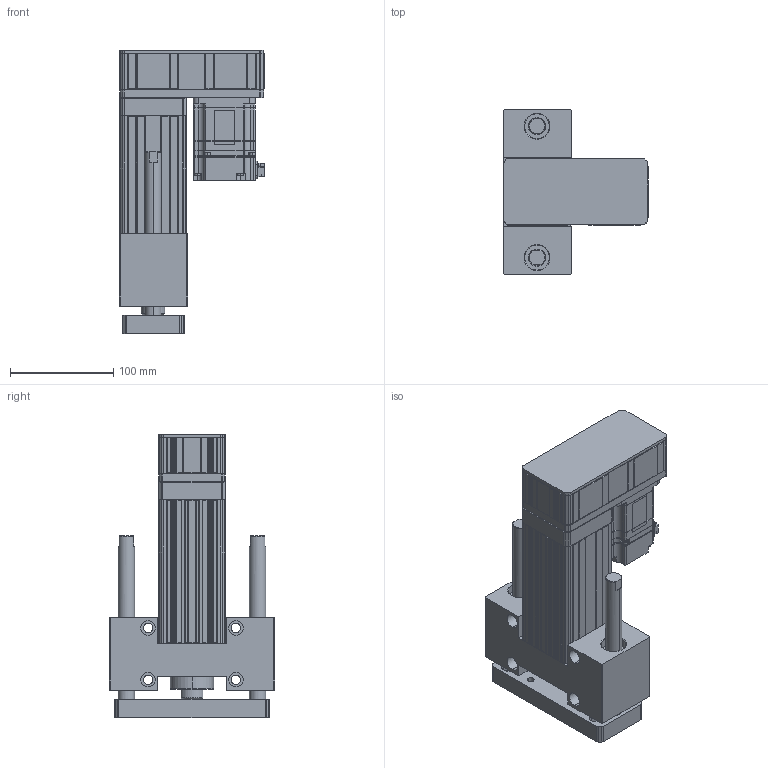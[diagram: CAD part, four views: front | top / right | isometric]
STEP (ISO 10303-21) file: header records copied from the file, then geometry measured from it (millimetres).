
FILE_DESCRIPTION (( 'STEP AP203' ), '1' );
FILE_NAME ('ANS065-HP050-05(10)-W20.STEP', '2019-03-01T05:21:00', ( 'user' ), ( '' ), 'SwSTEP 2.0', 'SolidWorks 2013', '' );
FILE_SCHEMA (( 'CONFIG_CONTROL_DESIGN' ));
Length unit declared in the file: millimetre
Products named in the file (4): ANS065-HP050-05(10)-W20; ANS065 HP050 VER2; ANS065 ROD ST050 G; sgmjv_02a_a21
Assembly tree (3 placements, depth 2):
  ANS065-HP050-05(10)-W20
    ANS065 HP050 VER2
    ANS065 ROD ST050 G
    sgmjv_02a_a21
Bounding box: 140.3 x 160 x 274.5 mm (x, y, z)
Volume: 1478442.6 mm3; surface area: 318342.6 mm2
Topology: 3 solids, 7 shells, 1458 faces, 3875 edges, 2502 vertices
Faces by surface type: plane 896, cylinder 452, cone 110
Entity records: 45387 total; most frequent: CARTESIAN_POINT 8127, ORIENTED_EDGE 7710, DIRECTION 7657, EDGE_CURVE 3855, LINE 2793, VECTOR 2793, VERTEX_POINT 2502, AXIS2_PLACEMENT_3D 2432
